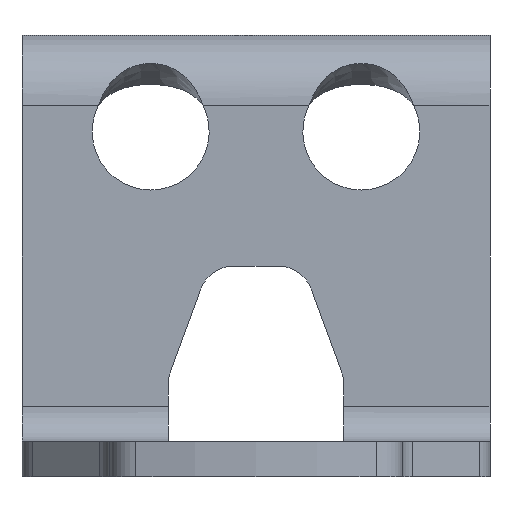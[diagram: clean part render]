
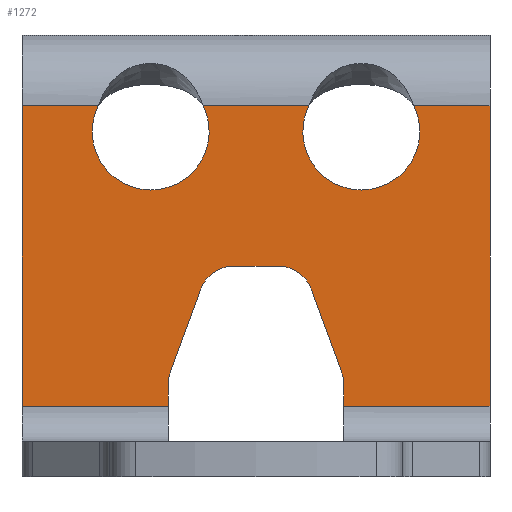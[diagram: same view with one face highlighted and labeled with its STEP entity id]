
A CAD part, left-side view. The second image highlights one B-rep face of the part: STEP entity #1272.
In plain terms, the highlighted planar face has unit normal (-1, 0, 0).
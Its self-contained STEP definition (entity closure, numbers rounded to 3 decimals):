
#39=PLANE('',#1373);
#81=FACE_OUTER_BOUND('',#147,.T.);
#147=EDGE_LOOP('',(#878,#879,#880,#881,#882,#883,#884,#885,#886,#887,#888,
#889,#890,#891,#892,#893,#894,#895));
#236=LINE('',#2056,#352);
#237=LINE('',#2058,#353);
#238=LINE('',#2060,#354);
#239=LINE('',#2062,#355);
#240=LINE('',#2066,#356);
#241=LINE('',#2070,#357);
#242=LINE('',#2074,#358);
#243=LINE('',#2078,#359);
#244=LINE('',#2080,#360);
#245=LINE('',#2082,#361);
#246=LINE('',#2083,#362);
#247=LINE('',#2084,#363);
#352=VECTOR('',#1566,10.);
#353=VECTOR('',#1567,8.64);
#354=VECTOR('',#1568,10.);
#355=VECTOR('',#1569,10.);
#356=VECTOR('',#1572,10.);
#357=VECTOR('',#1575,10.);
#358=VECTOR('',#1578,10.);
#359=VECTOR('',#1581,10.);
#360=VECTOR('',#1582,10.);
#361=VECTOR('',#1583,8.64);
#362=VECTOR('',#1584,10.);
#363=VECTOR('',#1585,10.);
#444=CIRCLE('',#1368,10.);
#446=CIRCLE('',#1371,10.);
#448=CIRCLE('',#1374,6.);
#449=CIRCLE('',#1375,6.);
#450=CIRCLE('',#1376,6.);
#451=CIRCLE('',#1377,6.);
#524=VERTEX_POINT('',#1964);
#525=VERTEX_POINT('',#1966);
#530=VERTEX_POINT('',#2037);
#531=VERTEX_POINT('',#2039);
#532=VERTEX_POINT('',#2055);
#533=VERTEX_POINT('',#2057);
#534=VERTEX_POINT('',#2059);
#535=VERTEX_POINT('',#2061);
#536=VERTEX_POINT('',#2063);
#537=VERTEX_POINT('',#2065);
#538=VERTEX_POINT('',#2067);
#539=VERTEX_POINT('',#2069);
#540=VERTEX_POINT('',#2071);
#541=VERTEX_POINT('',#2073);
#542=VERTEX_POINT('',#2075);
#543=VERTEX_POINT('',#2077);
#544=VERTEX_POINT('',#2079);
#545=VERTEX_POINT('',#2081);
#654=EDGE_CURVE('',#524,#525,#444,.T.);
#662=EDGE_CURVE('',#530,#531,#446,.T.);
#664=EDGE_CURVE('',#525,#532,#236,.T.);
#665=EDGE_CURVE('',#532,#533,#237,.T.);
#666=EDGE_CURVE('',#533,#534,#238,.T.);
#667=EDGE_CURVE('',#534,#535,#239,.T.);
#668=EDGE_CURVE('',#536,#535,#448,.T.);
#669=EDGE_CURVE('',#536,#537,#240,.T.);
#670=EDGE_CURVE('',#538,#537,#449,.T.);
#671=EDGE_CURVE('',#538,#539,#241,.T.);
#672=EDGE_CURVE('',#540,#539,#450,.T.);
#673=EDGE_CURVE('',#540,#541,#242,.T.);
#674=EDGE_CURVE('',#542,#541,#451,.T.);
#675=EDGE_CURVE('',#542,#543,#243,.T.);
#676=EDGE_CURVE('',#543,#544,#244,.T.);
#677=EDGE_CURVE('',#545,#544,#245,.T.);
#678=EDGE_CURVE('',#545,#530,#246,.T.);
#679=EDGE_CURVE('',#531,#524,#247,.T.);
#878=ORIENTED_EDGE('',*,*,#654,.T.);
#879=ORIENTED_EDGE('',*,*,#664,.T.);
#880=ORIENTED_EDGE('',*,*,#665,.T.);
#881=ORIENTED_EDGE('',*,*,#666,.T.);
#882=ORIENTED_EDGE('',*,*,#667,.T.);
#883=ORIENTED_EDGE('',*,*,#668,.F.);
#884=ORIENTED_EDGE('',*,*,#669,.T.);
#885=ORIENTED_EDGE('',*,*,#670,.F.);
#886=ORIENTED_EDGE('',*,*,#671,.T.);
#887=ORIENTED_EDGE('',*,*,#672,.F.);
#888=ORIENTED_EDGE('',*,*,#673,.T.);
#889=ORIENTED_EDGE('',*,*,#674,.F.);
#890=ORIENTED_EDGE('',*,*,#675,.T.);
#891=ORIENTED_EDGE('',*,*,#676,.T.);
#892=ORIENTED_EDGE('',*,*,#677,.F.);
#893=ORIENTED_EDGE('',*,*,#678,.T.);
#894=ORIENTED_EDGE('',*,*,#662,.T.);
#895=ORIENTED_EDGE('',*,*,#679,.T.);
#1272=ADVANCED_FACE('',(#81),#39,.T.);
#1368=AXIS2_PLACEMENT_3D('',#1979,#1550,#1551);
#1371=AXIS2_PLACEMENT_3D('',#2052,#1560,#1561);
#1373=AXIS2_PLACEMENT_3D('',#2054,#1564,#1565);
#1374=AXIS2_PLACEMENT_3D('',#2064,#1570,#1571);
#1375=AXIS2_PLACEMENT_3D('',#2068,#1573,#1574);
#1376=AXIS2_PLACEMENT_3D('',#2072,#1576,#1577);
#1377=AXIS2_PLACEMENT_3D('',#2076,#1579,#1580);
#1550=DIRECTION('center_axis',(1.,0.,0.));
#1551=DIRECTION('ref_axis',(0.,0.,1.));
#1560=DIRECTION('center_axis',(1.,0.,0.));
#1561=DIRECTION('ref_axis',(0.,0.,1.));
#1564=DIRECTION('center_axis',(-1.,0.,0.));
#1565=DIRECTION('ref_axis',(0.,0.,1.));
#1566=DIRECTION('',(0.,1.,0.));
#1567=DIRECTION('',(0.,0.,-1.));
#1568=DIRECTION('',(0.,-1.,0.));
#1569=DIRECTION('',(0.,0.,1.));
#1570=DIRECTION('center_axis',(-1.,0.,0.));
#1571=DIRECTION('ref_axis',(0.,0.984,0.176));
#1572=DIRECTION('',(0.,-0.346,0.938));
#1573=DIRECTION('center_axis',(-1.,0.,0.));
#1574=DIRECTION('ref_axis',(0.,0.572,0.82));
#1575=DIRECTION('',(0.,-1.,0.));
#1576=DIRECTION('center_axis',(-1.,0.,0.));
#1577=DIRECTION('ref_axis',(0.,-0.572,0.82));
#1578=DIRECTION('',(0.,-0.346,-0.938));
#1579=DIRECTION('center_axis',(-1.,0.,0.));
#1580=DIRECTION('ref_axis',(0.,-0.984,0.176));
#1581=DIRECTION('',(0.,0.,-1.));
#1582=DIRECTION('',(0.,-1.,0.));
#1583=DIRECTION('',(0.,0.,-1.));
#1584=DIRECTION('',(0.,1.,0.));
#1585=DIRECTION('',(0.,1.,0.));
#1964=CARTESIAN_POINT('',(-6.,9.045,63.45));
#1966=CARTESIAN_POINT('',(-6.,26.955,63.45));
#1979=CARTESIAN_POINT('Origin',(-6.,18.,59.));
#2037=CARTESIAN_POINT('',(-6.,-26.955,63.45));
#2039=CARTESIAN_POINT('',(-6.,-9.045,63.45));
#2052=CARTESIAN_POINT('Origin',(-6.,-18.,59.));
#2054=CARTESIAN_POINT('Origin',(-6.,0.,36.939));
#2055=CARTESIAN_POINT('',(-6.,40.,63.45));
#2056=CARTESIAN_POINT('',(-6.,-20.,63.45));
#2057=CARTESIAN_POINT('',(-6.,40.,12.));
#2058=CARTESIAN_POINT('',(-6.,40.,-15.143));
#2059=CARTESIAN_POINT('',(-6.,15.,12.));
#2060=CARTESIAN_POINT('',(-6.,0.,12.));
#2061=CARTESIAN_POINT('',(-6.,15.,15.93));
#2062=CARTESIAN_POINT('',(-6.,15.,26.97));
#2063=CARTESIAN_POINT('',(-6.,14.63,18.004));
#2064=CARTESIAN_POINT('Origin',(-6.,9.,15.93));
#2065=CARTESIAN_POINT('',(-6.,9.446,32.074));
#2066=CARTESIAN_POINT('',(-6.,7.37,37.711));
#2067=CARTESIAN_POINT('',(-6.,3.816,36.));
#2068=CARTESIAN_POINT('Origin',(-6.,3.816,30.));
#2069=CARTESIAN_POINT('',(-6.,-3.816,36.));
#2070=CARTESIAN_POINT('',(-6.,-4.,36.));
#2071=CARTESIAN_POINT('',(-6.,-9.446,32.074));
#2072=CARTESIAN_POINT('Origin',(-6.,-3.816,30.));
#2073=CARTESIAN_POINT('',(-6.,-14.63,18.004));
#2074=CARTESIAN_POINT('',(-6.,-10.87,28.211));
#2075=CARTESIAN_POINT('',(-6.,-15.,15.93));
#2076=CARTESIAN_POINT('Origin',(-6.,-9.,15.93));
#2077=CARTESIAN_POINT('',(-6.,-15.,12.));
#2078=CARTESIAN_POINT('',(-6.,-15.,18.47));
#2079=CARTESIAN_POINT('',(-6.,-40.,12.));
#2080=CARTESIAN_POINT('',(-6.,0.,12.));
#2081=CARTESIAN_POINT('',(-6.,-40.,63.45));
#2082=CARTESIAN_POINT('',(-6.,-40.,-15.143));
#2083=CARTESIAN_POINT('',(-6.,-20.,63.45));
#2084=CARTESIAN_POINT('',(-6.,-20.,63.45));
